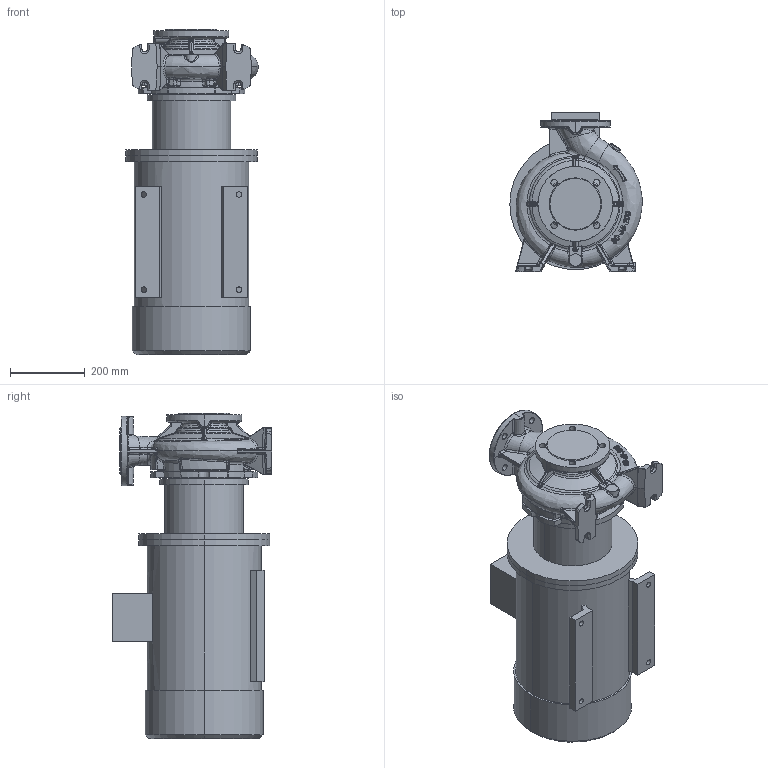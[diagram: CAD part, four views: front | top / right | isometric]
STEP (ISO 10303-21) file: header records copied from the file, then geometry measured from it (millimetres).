
FILE_DESCRIPTION (( 'STEP AP203' ), '1' );
FILE_NAME ('KRM 80-65-200-2-18,5.STEP', '2026-05-07T07:13:11', ( '' ), ( '' ), 'SwSTEP 2.0', 'SolidWorks 2016', '' );
FILE_SCHEMA (( 'CONFIG_CONTROL_DESIGN' ));
Length unit declared in the file: millimetre
Products named in the file (1): KRM 80-65-200-2-18,5
Bounding box: 353.01 x 425 x 867.3 mm (x, y, z)
Volume: 59909131.6 mm3; surface area: 1856527.2 mm2
Topology: 14 solids, 14 shells, 1176 faces, 2804 edges, 1664 vertices
Faces by surface type: bspline 552, cylinder 228, plane 216, torus 89, cone 76, sphere 15
Entity records: 72076 total; most frequent: CARTESIAN_POINT 49072, ORIENTED_EDGE 5572, DIRECTION 3717, EDGE_CURVE 2786, VERTEX_POINT 1664, AXIS2_PLACEMENT_3D 1535, EDGE_LOOP 1238, FACE_OUTER_BOUND 1176
